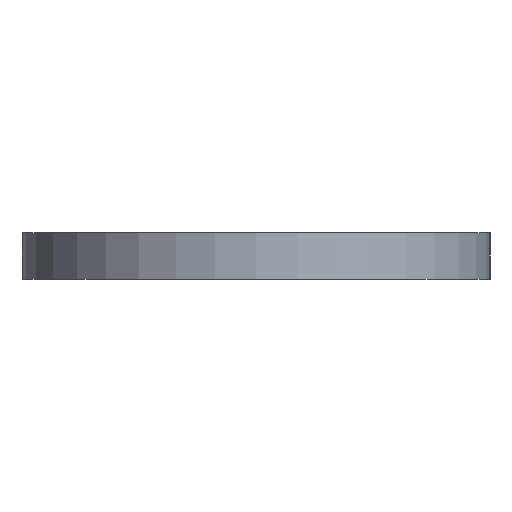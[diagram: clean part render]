
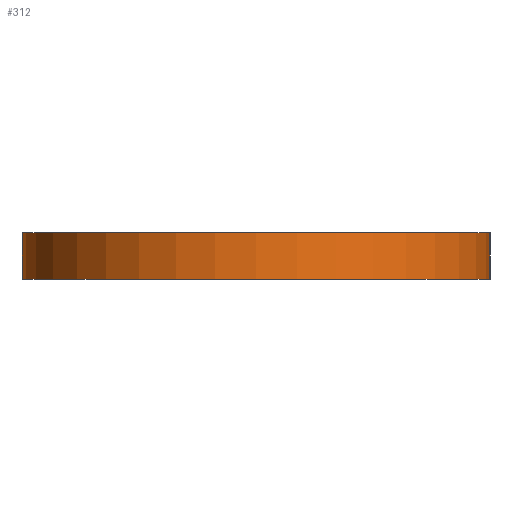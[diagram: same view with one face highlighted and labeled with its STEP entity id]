
A CAD part, left-side view. The second image highlights one B-rep face of the part: STEP entity #312.
In plain terms, the highlighted cylindrical face has radius 5 mm (diameter 10 mm), a partial arc.
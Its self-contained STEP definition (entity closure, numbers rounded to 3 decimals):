
#116=CYLINDRICAL_SURFACE('',#1838,5.);
#181=CIRCLE('',#1836,5.);
#182=CIRCLE('',#1837,5.);
#312=ADVANCED_FACE('',(#441),#116,.T.);
#441=FACE_OUTER_BOUND('',#535,.T.);
#535=EDGE_LOOP('',(#651,#652,#653,#654));
#651=ORIENTED_EDGE('',*,*,#1333,.T.);
#652=ORIENTED_EDGE('',*,*,#1334,.F.);
#653=ORIENTED_EDGE('',*,*,#1335,.F.);
#654=ORIENTED_EDGE('',*,*,#1330,.T.);
#1158=VERTEX_POINT('',#2646);
#1159=VERTEX_POINT('',#2648);
#1161=VERTEX_POINT('',#2654);
#1162=VERTEX_POINT('',#2656);
#1330=EDGE_CURVE('',#1159,#1158,#1585,.T.);
#1333=EDGE_CURVE('',#1158,#1161,#181,.T.);
#1334=EDGE_CURVE('',#1162,#1161,#1588,.T.);
#1335=EDGE_CURVE('',#1159,#1162,#182,.T.);
#1585=LINE('',#2647,#1710);
#1588=LINE('',#2655,#1713);
#1710=VECTOR('',#2065,1.);
#1713=VECTOR('',#2072,1.);
#1836=AXIS2_PLACEMENT_3D('',#2653,#2070,#2071);
#1837=AXIS2_PLACEMENT_3D('',#2657,#2073,#2074);
#1838=AXIS2_PLACEMENT_3D('',#2658,#2075,#2076);
#2065=DIRECTION('',(0.,0.,-1.));
#2070=DIRECTION('',(0.,0.,1.));
#2071=DIRECTION('',(1.,0.,0.));
#2072=DIRECTION('',(0.,0.,-1.));
#2073=DIRECTION('',(0.,0.,1.));
#2074=DIRECTION('',(1.,0.,0.));
#2075=DIRECTION('',(0.,0.,-1.));
#2076=DIRECTION('',(-1.,0.,0.));
#2646=CARTESIAN_POINT('',(-25.5,5.,0.));
#2647=CARTESIAN_POINT('',(-25.5,5.,1.));
#2648=CARTESIAN_POINT('',(-25.5,5.,1.));
#2653=CARTESIAN_POINT('',(-25.5,0.,0.));
#2654=CARTESIAN_POINT('',(-25.5,-5.,0.));
#2655=CARTESIAN_POINT('',(-25.5,-5.,1.));
#2656=CARTESIAN_POINT('',(-25.5,-5.,1.));
#2657=CARTESIAN_POINT('',(-25.5,0.,1.));
#2658=CARTESIAN_POINT('',(-25.5,0.,1.));
